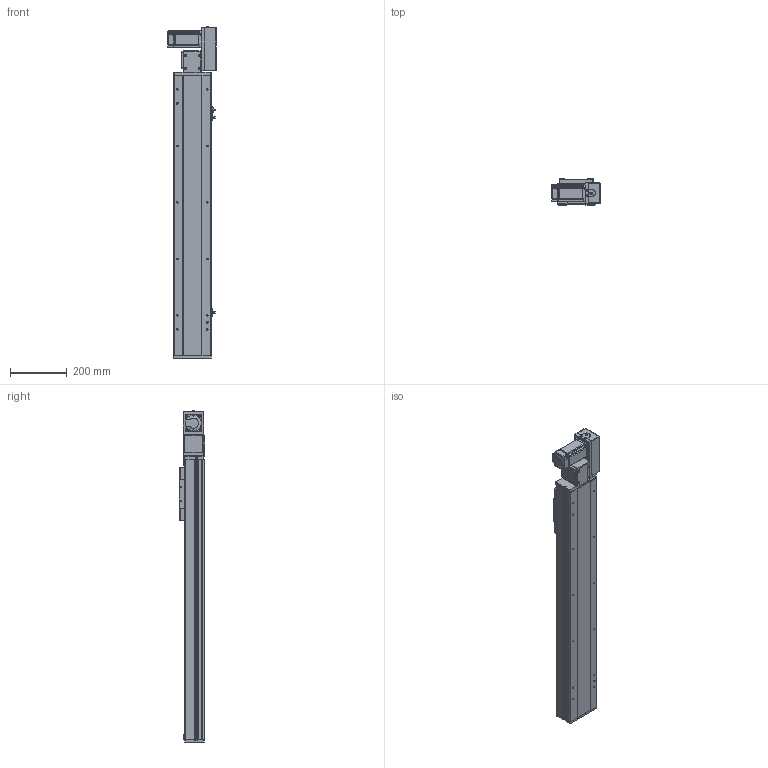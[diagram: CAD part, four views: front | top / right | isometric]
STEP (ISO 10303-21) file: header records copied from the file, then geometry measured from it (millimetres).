
FILE_DESCRIPTION (( 'STEP AP214' ), '1' );
FILE_NAME ('TPE14-L40-700-R-T40-C4.STEP', '2023-04-13T05:50:02', ( '' ), ( '' ), 'SwSTEP 2.0', 'SolidWorks 2020', '' );
FILE_SCHEMA (( 'AUTOMOTIVE_DESIGN' ));
Length unit declared in the file: millimetre
Products named in the file (10): 葩璃 TPT14-L-009 萇儂啣^TPE14-L40-R-T40-C4_400W; 葩璃 侂狟400W^TPE14-L40-R-T40-C4; 葩璃 詩湍75^TPE14-L40-R-T40-C4; 葩璃 TPE14 賑雄殤^TPE14-L40-R-T40-C4; 葩璃 TPE14-L-001 菁釱MZ-135-01^TPE14-L40-R-T40-C4; 葩璃 TPE14-L-002 耜裔ZTMZ-135-04^TPE14-L40-R-T40-C4; hexagon head bolts-full thread gb_GB_FASTENER_BOLT_STBAB A M5X16-N; 葩璃 pm-t65-672^TPE14-L40-R-T40-C4; 葩璃 TPE14-L-007 々湍釱MZ-169x88^TPE14-L40-R-T40-C4_YCB14; TPE14-L40-700-R-T40-C4
Assembly tree (12 placements, depth 2):
  TPE14-L40-700-R-T40-C4
    葩璃 TPE14-L-001 菁釱MZ-135-01^TPE14-L40-R-T40-C4
    葩璃 TPE14-L-002 耜裔ZTMZ-135-04^TPE14-L40-R-T40-C4  x2
    葩璃 詩湍75^TPE14-L40-R-T40-C4
    葩璃 TPE14-L-007 々湍釱MZ-169x88^TPE14-L40-R-T40-C4_YCB14
    葩璃 TPT14-L-009 萇儂啣^TPE14-L40-R-T40-C4_400W
    葩璃 TPE14 賑雄殤^TPE14-L40-R-T40-C4
    葩璃 pm-t65-672^TPE14-L40-R-T40-C4  x3
    葩璃 侂狟400W^TPE14-L40-R-T40-C4
    hexagon head bolts-full thread gb_GB_FASTENER_BOLT_STBAB A M5X16-N
Bounding box: 172.5 x 91 x 1175.15 mm (x, y, z)
Volume: 5779412.9 mm3; surface area: 1173528.7 mm2
Topology: 23 solids, 23 shells, 1404 faces, 3647 edges, 2320 vertices
Faces by surface type: plane 823, cylinder 417, cone 130, bspline 34
Entity records: 37343 total; most frequent: CARTESIAN_POINT 7320, DIRECTION 5968, ORIENTED_EDGE 5794, EDGE_CURVE 2897, AXIS2_PLACEMENT_3D 2022, LINE 1924, VECTOR 1924, VERTEX_POINT 1868
